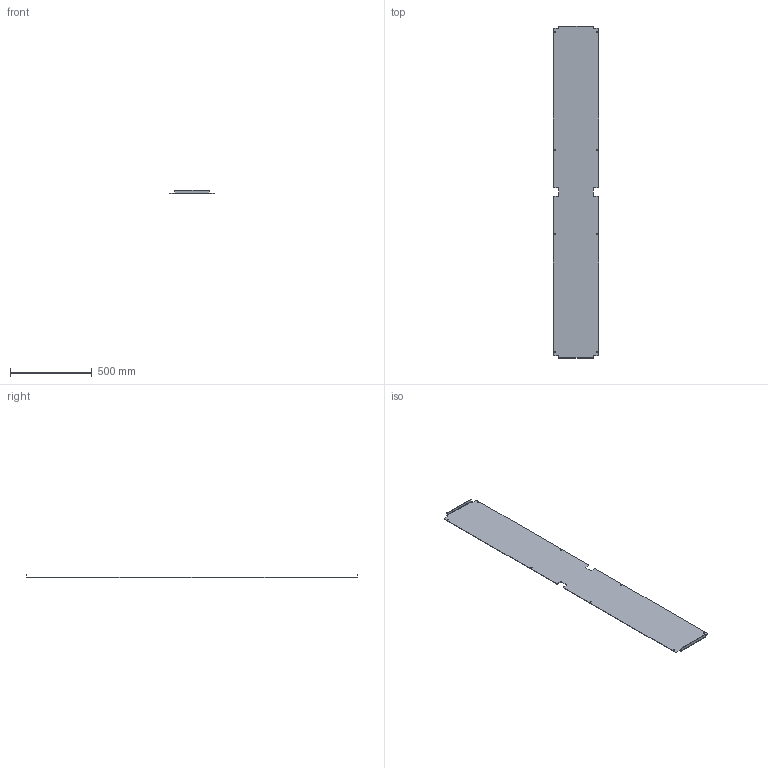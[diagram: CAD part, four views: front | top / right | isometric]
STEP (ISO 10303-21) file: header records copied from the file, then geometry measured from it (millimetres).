
FILE_DESCRIPTION (( 'STEP AP203' ), '1' );
FILE_NAME ('0400x2200_piastra supplementare_EUPS_Enux.STEP', '2015-03-03T14:42:00', ( 'Admin' ), ( '' ), 'SwSTEP 2.0', 'SolidWorks 2014', '' );
FILE_SCHEMA (( 'CONFIG_CONTROL_DESIGN' ));
Length unit declared in the file: millimetre
Products named in the file (1): 0400x2200_piastra supplementare_EUPS_Enux
Bounding box: 280 x 2035 x 20 mm (x, y, z)
Volume: 1427785.6 mm3; surface area: 1154629.9 mm2
Topology: 1 solids, 1 shells, 90 faces, 264 edges, 176 vertices
Faces by surface type: cylinder 48, plane 42
Entity records: 3133 total; most frequent: DIRECTION 542, CARTESIAN_POINT 531, ORIENTED_EDGE 528, EDGE_CURVE 264, AXIS2_PLACEMENT_3D 187, VERTEX_POINT 176, VECTOR 168, LINE 168
